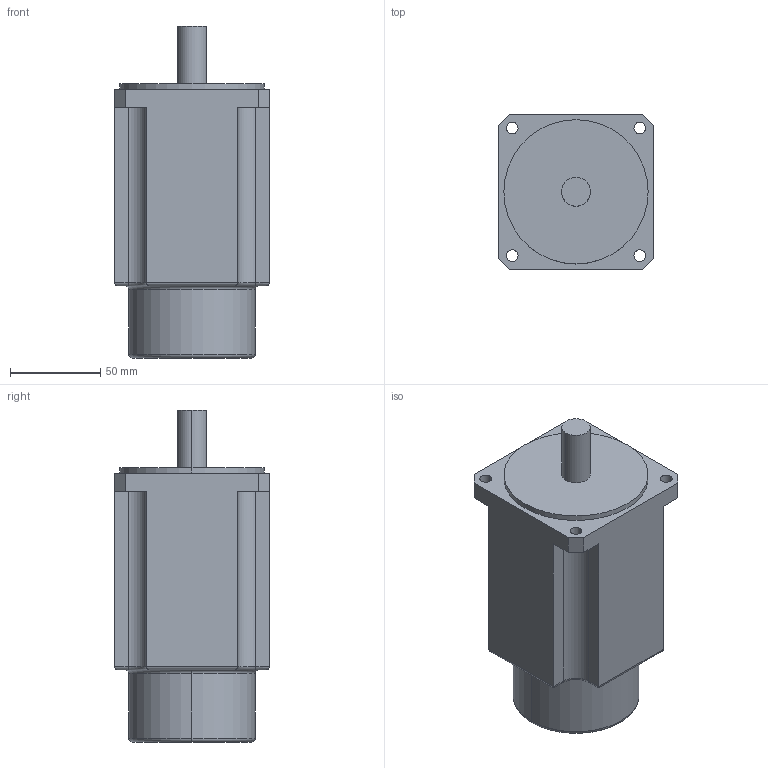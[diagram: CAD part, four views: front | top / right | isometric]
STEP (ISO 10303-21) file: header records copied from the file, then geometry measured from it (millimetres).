
FILE_DESCRIPTION (( 'STEP AP203' ), '1' );
FILE_NAME ('0,75ServoAdtech.STEP', '2013-07-24T11:57:49', ( 'Trio Evren' ), ( '' ), 'SwSTEP 2.0', 'SolidWorks 2013', '' );
FILE_SCHEMA (( 'CONFIG_CONTROL_DESIGN' ));
Length unit declared in the file: millimetre
Products named in the file (1): 0,75ServoAdtech
Bounding box: 86 x 86 x 184 mm (x, y, z)
Volume: 864482.8 mm3; surface area: 61346.2 mm2
Topology: 1 solids, 1 shells, 63 faces, 154 edges, 96 vertices
Faces by surface type: cylinder 30, plane 25, torus 8
Entity records: 1937 total; most frequent: CARTESIAN_POINT 338, DIRECTION 330, ORIENTED_EDGE 308, EDGE_CURVE 154, AXIS2_PLACEMENT_3D 120, VERTEX_POINT 96, LINE 90, VECTOR 90
